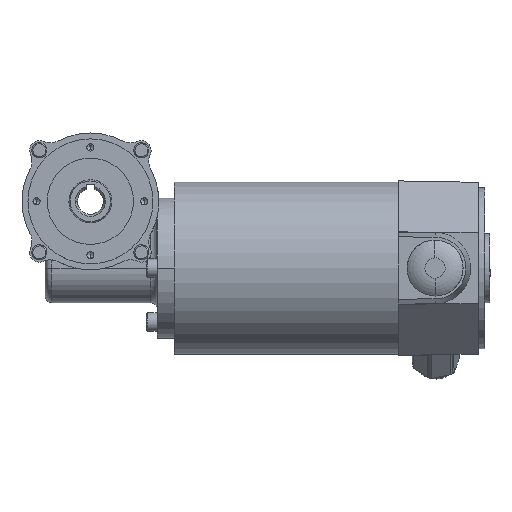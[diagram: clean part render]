
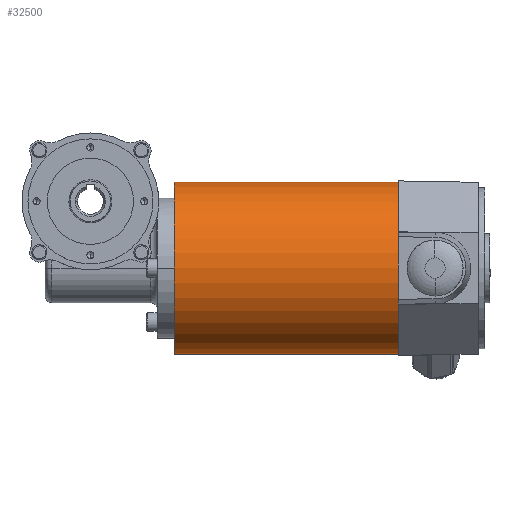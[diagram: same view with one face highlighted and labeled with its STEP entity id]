
A CAD part, top view. The second image highlights one B-rep face of the part: STEP entity #32500.
In plain terms, the highlighted cylindrical face has radius 40 mm (diameter 80 mm), a partial arc.
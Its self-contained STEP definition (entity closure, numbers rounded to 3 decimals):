
#7120=CARTESIAN_POINT('',(-51.325,455.,
-0.185));
#7130=DIRECTION('',(-0.026,0.,
1.));
#7140=DIRECTION('',(1.,0.,
0.026));
#7150=AXIS2_PLACEMENT_3D('',#7120,#7130,#7140);
#7160=CIRCLE('',#7150,40.);
#7170=CARTESIAN_POINT('',(-11.339,455.,
0.862));
#7180=VERTEX_POINT('',#7170);
#7190=CARTESIAN_POINT('',(-91.312,455.,
-1.232));
#7200=VERTEX_POINT('',#7190);
#7210=EDGE_CURVE('',#7180,#7200,#7160,.T.);
#29190=CARTESIAN_POINT('',(-48.603,455.,
-104.15));
#29200=DIRECTION('',(-0.026,0.,
1.));
#29210=DIRECTION('',(1.,0.,
0.026));
#29220=AXIS2_PLACEMENT_3D('',#29190,#29200,#29210);
#29230=CIRCLE('',#29220,40.);
#29240=CARTESIAN_POINT('',(-88.589,455.,
-105.197));
#29250=VERTEX_POINT('',#29240);
#29260=CARTESIAN_POINT('',(-8.617,455.,
-103.102));
#29270=VERTEX_POINT('',#29260);
#29300=EDGE_CURVE('',#29270,#29250,#29230,.T.);
#32290=CARTESIAN_POINT('',(-48.603,455.,
-104.15));
#32300=DIRECTION('',(-0.026,0.,
1.));
#32310=DIRECTION('',(1.,0.,
0.026));
#32320=AXIS2_PLACEMENT_3D('',#32290,#32300,#32310);
#32330=CYLINDRICAL_SURFACE('',#32320,40.);
#32340=CARTESIAN_POINT('',(-8.617,455.,
-103.102));
#32350=DIRECTION('',(-0.026,0.,
1.));
#32360=VECTOR('',#32350,1.);
#32370=LINE('',#32340,#32360);
#32380=EDGE_CURVE('',#29270,#7180,#32370,.T.);
#32390=ORIENTED_EDGE('',*,*,#32380,.F.);
#32400=ORIENTED_EDGE('',*,*,#7210,.F.);
#32410=CARTESIAN_POINT('',(-88.589,455.,
-105.197));
#32420=DIRECTION('',(-0.026,0.,
1.));
#32430=VECTOR('',#32420,1.);
#32440=LINE('',#32410,#32430);
#32450=EDGE_CURVE('',#29250,#7200,#32440,.T.);
#32460=ORIENTED_EDGE('',*,*,#32450,.T.);
#32470=ORIENTED_EDGE('',*,*,#29300,.T.);
#32480=EDGE_LOOP('',(#32470,#32460,#32400,#32390));
#32490=FACE_OUTER_BOUND('',#32480,.T.);
#32500=ADVANCED_FACE('',(#32490),#32330,.T.);
